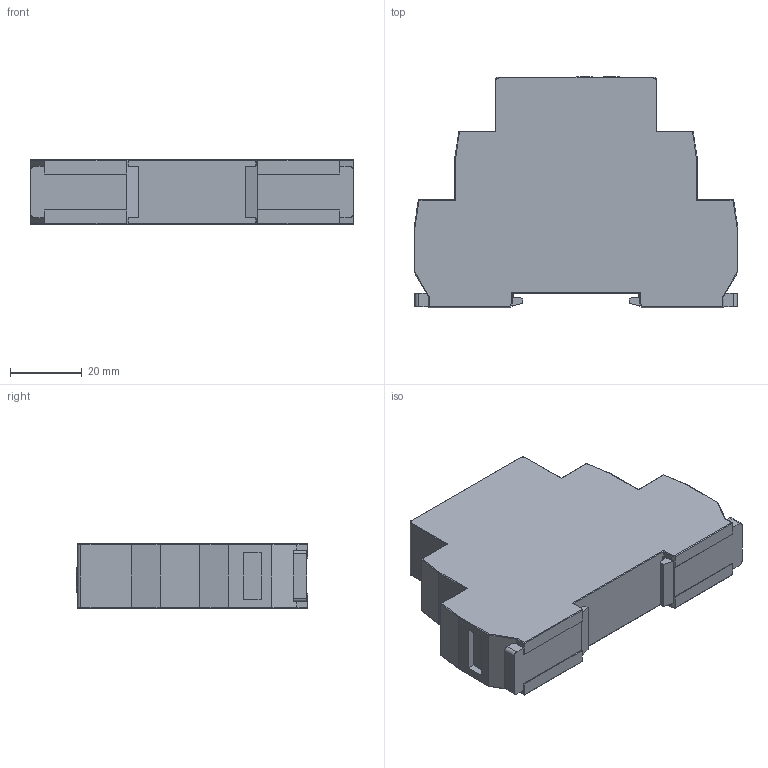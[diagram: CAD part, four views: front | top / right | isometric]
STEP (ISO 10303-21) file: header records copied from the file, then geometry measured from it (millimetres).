
FILE_DESCRIPTION (( 'STEP AP214' ), '1' );
FILE_NAME ('DKC_DRM-TA-1.STEP', '2024-09-02T05:41:01', ( 'ﾏ珞褄' ), ( '' ), 'SwSTEP 2.0', 'SolidWorks 2022', '' );
FILE_SCHEMA (( 'AUTOMOTIVE_DESIGN' ));
Length unit declared in the file: millimetre
Products named in the file (1): DKC_DRM-TA-1
Bounding box: 90 x 64.27 x 17.8 mm (x, y, z)
Volume: 79086.4 mm3; surface area: 15313.5 mm2
Topology: 1 solids, 1 shells, 371 faces, 969 edges, 614 vertices
Faces by surface type: plane 236, cylinder 100, cone 26, bspline 9
Entity records: 14698 total; most frequent: CARTESIAN_POINT 4712, ORIENTED_EDGE 1926, DIRECTION 1403, EDGE_CURVE 963, VERTEX_POINT 614, LINE 567, VECTOR 567, AXIS2_PLACEMENT_3D 418
